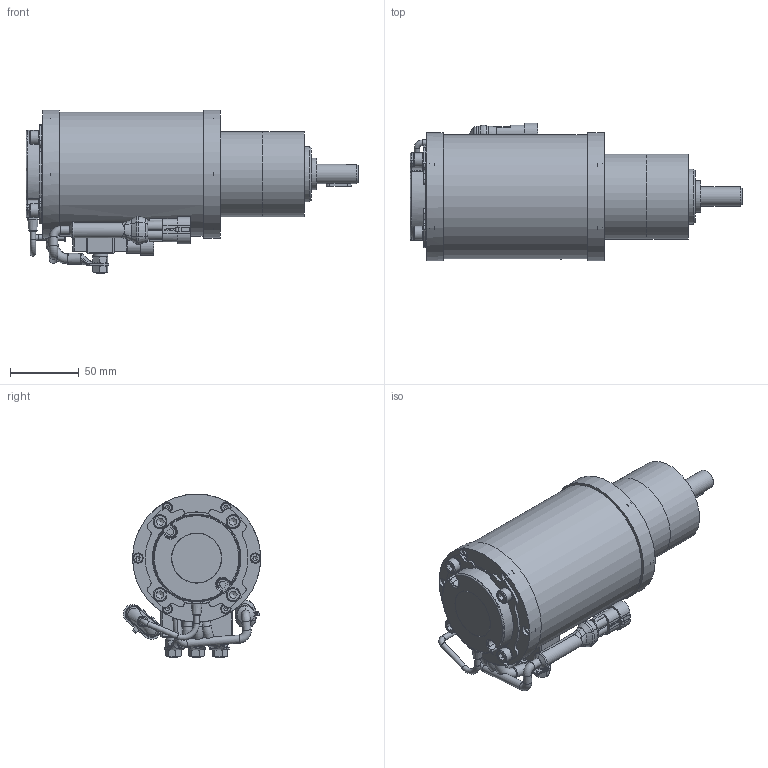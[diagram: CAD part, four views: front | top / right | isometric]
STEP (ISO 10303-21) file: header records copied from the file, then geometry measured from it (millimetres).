
FILE_DESCRIPTION(/* description */ (''),/* implementation_level */ '2;1');
FILE_NAME(/* name */ 'Z:\SITO WEB 2023\Motoriduttori\Motoriduttori AC\D.80 mm\ARD080.PM62.stp',/* time_stamp */ '2023-09-19T14:34:53+02:00',/* author */ ('cad3'),/* organization */ (''),/* preprocessor_version */ 'ST-DEVELOPER v18.1',/* originating_system */ 'Autodesk Inventor 2022',/* authorisation */ '');
FILE_SCHEMA (('AUTOMOTIVE_DESIGN { 1 0 10303 214 3 1 1 }'));
Products named in the file (1): ARD080.PM62
Bounding box: 241 x 99.73 x 119 mm (x, y, z)
Volume: 550628.4 mm3; surface area: 179211.5 mm2
Topology: 2 solids, 45 shells, 3923 faces, 10233 edges, 6543 vertices
Faces by surface type: plane 2352, cylinder 647, cone 371, bspline 283, torus 258, sphere 12
Full cylindrical faces by diameter (mm): 3.242 x20, 4 x20, 4.134 x1, 4.48 x4, 4.5 x16, 4.917 x5, 5 x2, 5.4 x2, 5.5 x5, 6 x16, 6.2 x6, 6.4 x7, 6.5 x4, 7 x17, 7.5 x12, 8 x7, 8.88 x3, 9.64 x2, 10 x4, 10.918 x1, 11 x3, 12 x1, 14 x1, 23 x1, 26 x2, 32 x4, 33.7 x1, 34.8 x1, 35 x2, 36.003 x1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
Entity records: 135239 total; most frequent: CARTESIAN_POINT 35443, ORIENTED_EDGE 20270, DIRECTION 19763, EDGE_CURVE 10135, AXIS2_PLACEMENT_3D 6936, VERTEX_POINT 6543, LINE 5891, VECTOR 5891
